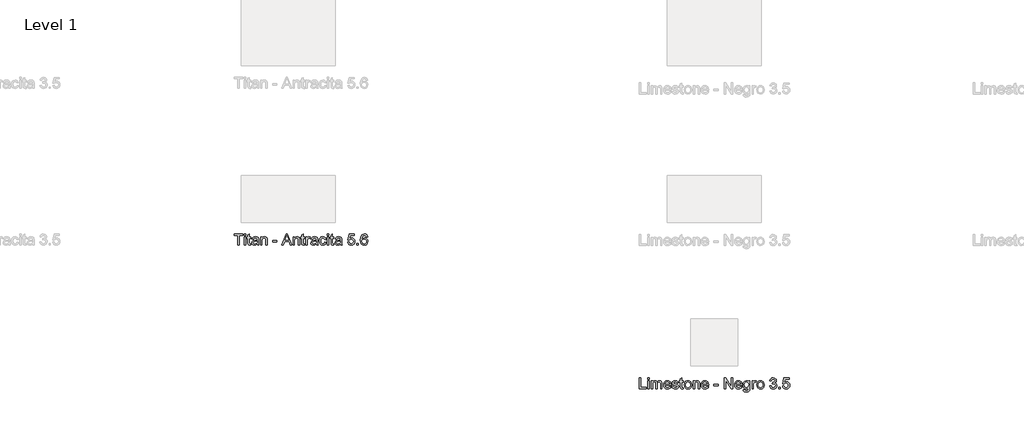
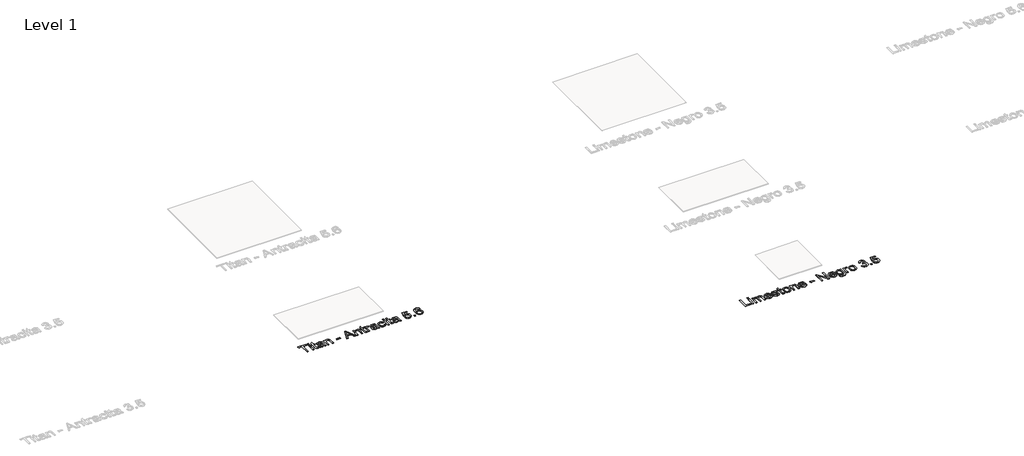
# One storey, part 8 of 80: 2 proxies.
"""IFC4 building model written with IfcOpenShell, lengths in millimetres."""

from ifc_helpers import new_model, si_unit, origin, origin_with_axes, place, context, project, spatial, polyline, outline, extrude, element, save

model = new_model("IFC4")

# Units and contexts
model_context = context("Model", 3, world=origin())
ifc_project = project(units=[si_unit("LENGTHUNIT", "METRE", prefix="MILLI")], contexts=[model_context])

# Site, building, storey
site = spatial("IfcSite", under=ifc_project)
building = spatial("IfcBuilding", under=site)
storey = spatial("IfcBuildingStorey", under=building, Name="Level 1", Elevation=0.0)

# Proxies
placement = place(None, origin())
element("IfcBuildingElementProxy", 1, Name="24\" Arial", ObjectType="24\" Arial", at=placement, inside=storey, context=model_context, shape_type="SweptSolid", body=[
    extrude(outline(polyline([(-3383.0761079, -21843.2188289), (-3383.0761079, -21725.0649827), (-3368.3068771, -21725.0649827), (-3368.3068771, -21828.4495981), (-3309.2299541, -21828.4495981), (-3309.2299541, -21843.2188289), (-3383.0761079, -21843.2188289)])), origin_with_axes(), (0.0, 0.0, 1.0), 2.0),
    extrude(outline(polyline([(-3294.4607233, -21739.8342135), (-3294.4607233, -21725.0649827), (-3279.6914925, -21725.0649827), (-3279.6914925, -21739.8342135), (-3294.4607233, -21739.8342135)])), origin_with_axes(), (0.0, 0.0, 1.0), 2.0),
    extrude(outline(polyline([(-3294.4607233, -21843.2188289), (-3294.4607233, -21756.4495981), (-3279.6914925, -21756.4495981), (-3279.6914925, -21843.2188289), (-3294.4607233, -21843.2188289)])), origin_with_axes(), (0.0, 0.0, 1.0), 2.0),
    extrude(outline(polyline([(-3257.5376464, -21843.2188289), (-3257.5376464, -21756.4495981), (-3242.7684156, -21756.4495981), (-3242.7684156, -21770.7284443), (-3232.6145694, -21759.0313289), (-3218.1626464, -21754.6034443), (-3203.3645694, -21759.1178673), (-3195.2299541, -21771.7669058), (-3183.7059156, -21758.8943097), (-3169.153031, -21754.6034443), (-3158.0508675, -21756.3883), (-3149.840531, -21761.7428673), (-3144.7672137, -21770.811377), (-3143.0761079, -21783.7380597), (-3143.0761079, -21843.2188289), (-3157.8453387, -21843.2188289), (-3157.8453387, -21790.0842135), (-3159.215531, -21777.7524827), (-3164.1770694, -21771.6803673), (-3172.6145694, -21769.372675), (-3180.6157714, -21770.8510404), (-3187.1386079, -21775.2861366), (-3191.4763483, -21782.9808481), (-3192.9222617, -21794.2380597), (-3192.9222617, -21843.2188289), (-3207.6914925, -21843.2188289), (-3207.6914925, -21788.4399827), (-3211.1097617, -21774.1322904), (-3222.3164925, -21769.372675), (-3233.2491848, -21772.545752), (-3240.5184156, -21781.8342135), (-3242.7684156, -21799.4592135), (-3242.7684156, -21843.2188289), (-3257.5376464, -21843.2188289)])), origin_with_axes(), (0.0, 0.0, 1.0), 2.0),
    extrude(outline(polyline([(-3060.1722617, -21817.372675), (-3045.6914925, -21819.2188289), (-3050.9090406, -21830.1298866), (-3059.2347617, -21838.2861366), (-3070.481156, -21843.3702712), (-3084.4607233, -21845.0649827), (-3101.7900502, -21842.1407039), (-3115.1241848, -21833.3678673), (-3123.6265887, -21819.3161847), (-3126.4607233, -21800.5553673), (-3123.5977425, -21781.1635404), (-3115.0088002, -21766.6611366), (-3101.8549541, -21757.6178673), (-3085.2972617, -21754.6034443), (-3069.2551944, -21757.6106558), (-3056.4366848, -21766.6322904), (-3048.0316367, -21781.1058481), (-3045.2299541, -21800.4688289), (-3045.3164925, -21804.4495981), (-3111.6914925, -21804.4495981), (-3109.1350021, -21815.5048866), (-3103.1963002, -21823.6322904), (-3094.6253867, -21828.6298866), (-3084.1722617, -21830.295752), (-3069.6914925, -21827.2092135), (-3060.1722617, -21817.372675)]), holes=[polyline([(-3111.6914925, -21789.6803673), (-3059.9991848, -21789.6803673), (-3065.9126464, -21776.295752), (-3074.5232233, -21771.1034443), (-3085.3549541, -21769.372675), (-3103.5424541, -21774.8967135), (-3109.2648098, -21781.3546462), (-3111.6914925, -21789.6803673)])]), origin_with_axes(), (0.0, 0.0, 1.0), 2.0),
    extrude(outline(polyline([(-3035.9991848, -21817.372675), (-3021.2299541, -21815.5265212), (-3014.3934156, -21826.4880597), (-2998.7299541, -21830.295752), (-2983.6722617, -21826.8053673), (-2978.7684156, -21818.6130597), (-2983.7011079, -21811.9784443), (-2998.903031, -21807.7669058), (-3021.1434156, -21800.5409443), (-3030.8501464, -21792.1034443), (-3034.153031, -21780.1899827), (-3031.4991848, -21769.185175), (-3024.2588002, -21760.7765212), (-3014.8693771, -21756.4063289), (-3002.1626464, -21754.6034443), (-2984.1914925, -21757.5024827), (-2972.7684156, -21765.3486366), (-2967.6914925, -21778.6034443), (-2982.4607233, -21780.4495981), (-2988.0136079, -21772.3005597), (-3001.0088002, -21769.372675), (-3015.1434156, -21772.170752), (-3019.3838002, -21778.6899827), (-3017.6241848, -21782.9880597), (-3012.1145694, -21786.247675), (-2999.3934156, -21789.3919058), (-2977.715531, -21796.3438289), (-2967.6482233, -21804.2188289), (-2963.9991848, -21817.0553673), (-2968.2828387, -21831.1899827), (-2980.6434156, -21841.4447904), (-2998.9318771, -21845.0649827), (-3013.8237041, -21843.3197904), (-3024.6914925, -21838.0842135), (-3031.9463002, -21829.4159443), (-3035.9991848, -21817.372675)])), origin_with_axes(), (0.0, 0.0, 1.0), 2.0),
    extrude(outline(polyline([(-2915.9991848, -21830.9015212), (-2914.153031, -21843.6515212), (-2925.2011079, -21845.0649827), (-2937.5761079, -21842.6130597), (-2943.7491848, -21836.1803673), (-2945.5376464, -21819.420752), (-2945.5376464, -21771.2188289), (-2956.6145694, -21771.2188289), (-2956.6145694, -21756.4495981), (-2945.5376464, -21756.4495981), (-2945.5376464, -21735.3630597), (-2930.7684156, -21726.6803673), (-2930.7684156, -21756.4495981), (-2915.9991848, -21756.4495981), (-2915.9991848, -21771.2188289), (-2930.7684156, -21771.2188289), (-2930.7684156, -21818.9880597), (-2929.9895694, -21826.6034443), (-2927.465531, -21829.3005597), (-2922.4318771, -21830.295752), (-2915.9991848, -21830.9015212)])), origin_with_axes(), (0.0, 0.0, 1.0), 2.0),
    extrude(outline(polyline([(-2904.9222617, -21799.8342135), (-2901.7275502, -21778.9135404), (-2892.1434156, -21764.2092135), (-2880.3020694, -21757.0048866), (-2866.1241848, -21754.6034443), (-2850.6085598, -21757.5277231), (-2838.215531, -21766.3005597), (-2830.0917329, -21780.2296462), (-2827.3838002, -21798.622675), (-2832.1722617, -21824.9015212), (-2846.1193771, -21839.7717135), (-2866.1241848, -21845.0649827), (-2881.8273098, -21842.1515212), (-2894.2059156, -21833.4111366), (-2902.2431752, -21819.1899827), (-2904.9222617, -21799.8342135)]), holes=[polyline([(-2890.153031, -21799.8053673), (-2888.4438964, -21813.1719539), (-2883.3164925, -21822.6947904), (-2875.6001464, -21828.3955116), (-2866.1241848, -21830.295752), (-2856.6914925, -21828.3846943), (-2848.9895694, -21822.6515212), (-2843.8621656, -21813.0024827), (-2842.153031, -21799.3438289), (-2843.8729829, -21786.3666654), (-2849.0328387, -21776.9736366), (-2856.7455791, -21771.2729154), (-2866.1241848, -21769.372675), (-2875.6001464, -21771.2657039), (-2883.3164925, -21776.9447904), (-2888.4438964, -21786.4459923), (-2890.153031, -21799.8053673)])]), origin_with_axes(), (0.0, 0.0, 1.0), 2.0),
    extrude(outline(polyline([(-2810.7684156, -21843.2188289), (-2810.7684156, -21756.4495981), (-2795.9991848, -21756.4495981), (-2795.9991848, -21768.5649827), (-2784.7059156, -21758.0938289), (-2769.2876464, -21754.6034443), (-2755.340531, -21757.4159443), (-2745.8213002, -21764.8005597), (-2741.3934156, -21775.6611366), (-2740.6145694, -21789.9399827), (-2740.6145694, -21843.2188289), (-2755.3838002, -21843.2188289), (-2755.3838002, -21791.9303673), (-2757.0857233, -21778.8630597), (-2763.1001464, -21771.9544058), (-2773.2395694, -21769.372675), (-2789.2636079, -21775.170752), (-2794.3152906, -21783.5721943), (-2795.9991848, -21797.1803673), (-2795.9991848, -21843.2188289), (-2810.7684156, -21843.2188289)])), origin_with_axes(), (0.0, 0.0, 1.0), 2.0),
    extrude(outline(polyline([(-2659.5568771, -21817.372675), (-2645.0761079, -21819.2188289), (-2650.293656, -21830.1298866), (-2658.6193771, -21838.2861366), (-2669.8657714, -21843.3702712), (-2683.8453387, -21845.0649827), (-2701.1746656, -21842.1407039), (-2714.5088002, -21833.3678673), (-2723.0112041, -21819.3161847), (-2725.8453387, -21800.5553673), (-2722.9823579, -21781.1635404), (-2714.3934156, -21766.6611366), (-2701.2395694, -21757.6178673), (-2684.6818771, -21754.6034443), (-2668.6398098, -21757.6106558), (-2655.8213002, -21766.6322904), (-2647.4162521, -21781.1058481), (-2644.6145694, -21800.4688289), (-2644.7011079, -21804.4495981), (-2711.0761079, -21804.4495981), (-2708.5196175, -21815.5048866), (-2702.5809156, -21823.6322904), (-2694.0100021, -21828.6298866), (-2683.5568771, -21830.295752), (-2669.0761079, -21827.2092135), (-2659.5568771, -21817.372675)]), holes=[polyline([(-2711.0761079, -21789.6803673), (-2659.3838002, -21789.6803673), (-2665.2972617, -21776.295752), (-2673.9078387, -21771.1034443), (-2684.7395694, -21769.372675), (-2702.9270694, -21774.8967135), (-2708.6494252, -21781.3546462), (-2711.0761079, -21789.6803673)])]), origin_with_axes(), (0.0, 0.0, 1.0), 2.0),
    extrude(outline(polyline([(-2591.0761079, -21808.1419058), (-2591.0761079, -21793.372675), (-2544.9222617, -21793.372675), (-2544.9222617, -21808.1419058), (-2591.0761079, -21808.1419058)])), origin_with_axes(), (0.0, 0.0, 1.0), 2.0),
    extrude(outline(polyline([(-2480.3068771, -21843.2188289), (-2480.3068771, -21725.0649827), (-2464.4991848, -21725.0649827), (-2402.7684156, -21818.670752), (-2402.7684156, -21725.0649827), (-2387.9991848, -21725.0649827), (-2387.9991848, -21843.2188289), (-2403.8068771, -21843.2188289), (-2465.5376464, -21749.5842135), (-2465.5376464, -21843.2188289), (-2480.3068771, -21843.2188289)])), origin_with_axes(), (0.0, 0.0, 1.0), 2.0),
    extrude(outline(polyline([(-2303.2491848, -21817.372675), (-2288.7684156, -21819.2188289), (-2293.9859637, -21830.1298866), (-2302.3116848, -21838.2861366), (-2313.5580791, -21843.3702712), (-2327.5376464, -21845.0649827), (-2344.8669733, -21842.1407039), (-2358.2011079, -21833.3678673), (-2366.7035117, -21819.3161847), (-2369.5376464, -21800.5553673), (-2366.6746656, -21781.1635404), (-2358.0857233, -21766.6611366), (-2344.9318771, -21757.6178673), (-2328.3741848, -21754.6034443), (-2312.3321175, -21757.6106558), (-2299.5136079, -21766.6322904), (-2291.1085598, -21781.1058481), (-2288.3068771, -21800.4688289), (-2288.3934156, -21804.4495981), (-2354.7684156, -21804.4495981), (-2352.2119252, -21815.5048866), (-2346.2732233, -21823.6322904), (-2337.7023098, -21828.6298866), (-2327.2491848, -21830.295752), (-2312.7684156, -21827.2092135), (-2303.2491848, -21817.372675)]), holes=[polyline([(-2354.7684156, -21789.6803673), (-2303.0761079, -21789.6803673), (-2308.9895694, -21776.295752), (-2317.6001464, -21771.1034443), (-2328.4318771, -21769.372675), (-2346.6193771, -21774.8967135), (-2352.3417329, -21781.3546462), (-2354.7684156, -21789.6803673)])]), origin_with_axes(), (0.0, 0.0, 1.0), 2.0),
    extrude(outline(polyline([(-2277.2299541, -21850.6034443), (-2262.4607233, -21852.4495981), (-2257.6722617, -21860.2380597), (-2243.3357233, -21863.5265212), (-2228.2203387, -21859.8053673), (-2221.0088002, -21849.3630597), (-2219.9991848, -21832.1419058), (-2230.3982233, -21840.4495981), (-2243.0761079, -21843.2188289), (-2258.3032714, -21839.9952712), (-2269.6578387, -21830.3245981), (-2276.7215406, -21816.1467135), (-2279.0761079, -21799.4015212), (-2274.8501464, -21776.5120981), (-2262.6193771, -21760.3149827), (-2243.7972617, -21754.6034443), (-2230.621781, -21757.8342135), (-2219.9991848, -21767.5265212), (-2219.9991848, -21756.4495981), (-2205.2299541, -21756.4495981), (-2205.2299541, -21831.3630597), (-2209.2684156, -21860.0505597), (-2222.0616848, -21873.3919058), (-2243.6241848, -21878.295752), (-2257.3657714, -21876.5685885), (-2268.1866848, -21871.3870981), (-2275.1277906, -21862.7368577), (-2277.2299541, -21850.6034443)]), holes=[polyline([(-2264.3068771, -21798.3919058), (-2262.731156, -21811.9387808), (-2258.0039925, -21821.2524827), (-2250.8970214, -21826.6503193), (-2242.1818771, -21828.4495981), (-2233.5316367, -21826.6611366), (-2226.3886079, -21821.295752), (-2221.5965406, -21812.1010404), (-2219.9991848, -21798.8245981), (-2221.6434156, -21786.0205116), (-2226.5761079, -21776.8005597), (-2233.8237041, -21771.2296462), (-2242.4126464, -21769.372675), (-2250.8465406, -21771.2008), (-2257.9174541, -21776.685175), (-2262.7095214, -21785.7681077), (-2264.3068771, -21798.3919058)])]), origin_with_axes(), (0.0, 0.0, 1.0), 2.0),
    extrude(outline(polyline([(-2183.0761079, -21843.2188289), (-2183.0761079, -21756.4495981), (-2170.153031, -21756.4495981), (-2170.153031, -21769.2861366), (-2160.9799541, -21757.4592135), (-2151.7491848, -21754.6034443), (-2136.9222617, -21759.1611366), (-2141.8549541, -21772.4015212), (-2152.2395694, -21769.372675), (-2160.590531, -21772.2861366), (-2165.9126464, -21780.3630597), (-2168.3068771, -21797.6130597), (-2168.3068771, -21843.2188289), (-2183.0761079, -21843.2188289)])), origin_with_axes(), (0.0, 0.0, 1.0), 2.0),
    extrude(outline(polyline([(-2131.3838002, -21799.8342135), (-2128.1890887, -21778.9135404), (-2118.6049541, -21764.2092135), (-2106.7636079, -21757.0048866), (-2092.5857233, -21754.6034443), (-2077.0700983, -21757.5277231), (-2064.6770694, -21766.3005597), (-2056.5532714, -21780.2296462), (-2053.8453387, -21798.622675), (-2058.6338002, -21824.9015212), (-2072.5809156, -21839.7717135), (-2092.5857233, -21845.0649827), (-2108.2888483, -21842.1515212), (-2120.6674541, -21833.4111366), (-2128.7047137, -21819.1899827), (-2131.3838002, -21799.8342135)]), holes=[polyline([(-2116.6145694, -21799.8053673), (-2114.9054348, -21813.1719539), (-2109.778031, -21822.6947904), (-2102.0616848, -21828.3955116), (-2092.5857233, -21830.295752), (-2083.153031, -21828.3846943), (-2075.4511079, -21822.6515212), (-2070.3237041, -21813.0024827), (-2068.6145694, -21799.3438289), (-2070.3345214, -21786.3666654), (-2075.4943771, -21776.9736366), (-2083.2071175, -21771.2729154), (-2092.5857233, -21769.372675), (-2102.0616848, -21771.2657039), (-2109.778031, -21776.9447904), (-2114.9054348, -21786.4459923), (-2116.6145694, -21799.8053673)])]), origin_with_axes(), (0.0, 0.0, 1.0), 2.0),
    extrude(outline(polyline([(-1994.7684156, -21811.8342135), (-1979.9991848, -21809.9880597), (-1971.8501464, -21825.5361366), (-1956.6049541, -21830.295752), (-1946.4799541, -21828.6587327), (-1938.6626464, -21823.747675), (-1933.6650502, -21816.420752), (-1931.9991848, -21807.5361366), (-1933.6506271, -21799.1022423), (-1938.6049541, -21792.2620981), (-1946.1049541, -21787.7296462), (-1955.3934156, -21786.2188289), (-1965.7491848, -21787.8342135), (-1964.1049541, -21773.0649827), (-1961.7395694, -21773.2380597), (-1944.9799541, -21768.997675), (-1939.3982233, -21763.6178673), (-1937.5376464, -21755.9592135), (-1942.9318771, -21744.4063289), (-1956.8357233, -21739.8342135), (-1970.9126464, -21744.4495981), (-1978.153031, -21758.295752), (-1992.9222617, -21756.4495981), (-1988.5737041, -21743.1875789), (-1980.8357233, -21733.2861366), (-1970.2491848, -21727.1202712), (-1957.3549541, -21725.0649827), (-1939.5424541, -21729.1178673), (-1927.0809156, -21740.1947904), (-1922.7684156, -21755.0938289), (-1926.8645694, -21768.7092135), (-1938.9799541, -21778.4880597), (-1929.7347617, -21782.2236366), (-1922.8838002, -21788.5842135), (-1918.6434156, -21797.2236366), (-1917.2299541, -21807.795752), (-1920.0568771, -21822.1899827), (-1928.5376464, -21834.2188289), (-1941.3381271, -21842.3534443), (-1957.1241848, -21845.0649827), (-1971.403031, -21842.7500789), (-1983.028031, -21835.8053673), (-1991.1121656, -21825.1827712), (-1994.7684156, -21811.8342135)])), origin_with_axes(), (0.0, 0.0, 1.0), 2.0),
    extrude(outline(polyline([(-1896.9222617, -21843.2188289), (-1896.9222617, -21828.4495981), (-1882.153031, -21828.4495981), (-1882.153031, -21843.2188289), (-1896.9222617, -21843.2188289)])), origin_with_axes(), (0.0, 0.0, 1.0), 2.0),
    extrude(outline(polyline([(-1858.153031, -21811.8342135), (-1843.3838002, -21809.9880597), (-1835.9414925, -21825.2044058), (-1820.5088002, -21830.295752), (-1809.9222617, -21828.5253193), (-1801.9895694, -21823.2140212), (-1797.0352425, -21814.9748385), (-1795.3838002, -21804.420752), (-1796.9306752, -21794.483252), (-1801.5713002, -21786.8822904), (-1809.3417329, -21782.0577712), (-1820.278031, -21780.4495981), (-1833.2443771, -21783.0169058), (-1841.5376464, -21789.6803673), (-1856.3068771, -21787.8342135), (-1843.3838002, -21726.9111366), (-1786.153031, -21726.9111366), (-1786.153031, -21741.6803673), (-1831.4414925, -21741.6803673), (-1837.7588002, -21774.2188289), (-1827.2083194, -21767.8149827), (-1816.153031, -21765.6803673), (-1802.3537521, -21768.327002), (-1790.8982233, -21776.2669058), (-1783.1854829, -21788.3678673), (-1780.6145694, -21803.497675), (-1782.9294733, -21818.2669058), (-1789.8741848, -21830.9015212), (-1803.1722617, -21841.5241173), (-1820.5664925, -21845.0649827), (-1835.0725021, -21842.7897423), (-1846.6289925, -21835.9640212), (-1854.5508675, -21825.3810885), (-1858.153031, -21811.8342135)])), origin_with_axes(), (0.0, 0.0, 1.0), 2.0),
])
element("IfcBuildingElementProxy", 2, Name="24\" Arial", ObjectType="24\" Arial", at=placement, inside=storey, context=model_context, shape_type="SweptSolid", body=[
    extrude(outline(polyline([(-7662.7684156, -20307.8922787), (-7662.7684156, -20204.5076633), (-7701.5376464, -20204.5076633), (-7701.5376464, -20189.7384325), (-7609.2299541, -20189.7384325), (-7609.2299541, -20204.5076633), (-7647.9991848, -20204.5076633), (-7647.9991848, -20307.8922787), (-7662.7684156, -20307.8922787)])), origin_with_axes(), (0.0, 0.0, 1.0), 2.0),
    extrude(outline(polyline([(-7594.4607233, -20307.8922787), (-7594.4607233, -20221.1230479), (-7579.6914925, -20221.1230479), (-7579.6914925, -20307.8922787), (-7594.4607233, -20307.8922787)])), origin_with_axes(), (0.0, 0.0, 1.0), 2.0),
    extrude(outline(polyline([(-7594.4607233, -20204.5076633), (-7594.4607233, -20189.7384325), (-7579.6914925, -20189.7384325), (-7579.6914925, -20204.5076633), (-7594.4607233, -20204.5076633)])), origin_with_axes(), (0.0, 0.0, 1.0), 2.0),
    extrude(outline(polyline([(-7526.153031, -20295.574971), (-7524.3068771, -20308.324971), (-7535.3549541, -20309.7384325), (-7547.7299541, -20307.2865094), (-7553.903031, -20300.8538171), (-7555.6914925, -20284.0942017), (-7555.6914925, -20235.8922787), (-7566.7684156, -20235.8922787), (-7566.7684156, -20221.1230479), (-7555.6914925, -20221.1230479), (-7555.6914925, -20200.0365094), (-7540.9222617, -20191.3538171), (-7540.9222617, -20221.1230479), (-7526.153031, -20221.1230479), (-7526.153031, -20235.8922787), (-7540.9222617, -20235.8922787), (-7540.9222617, -20283.6615094), (-7540.1434156, -20291.276894), (-7537.6193771, -20293.9740094), (-7532.5857233, -20294.9692017), (-7526.153031, -20295.574971)])), origin_with_axes(), (0.0, 0.0, 1.0), 2.0),
    extrude(outline(polyline([(-7455.9991848, -20296.8153556), (-7470.3213002, -20306.824971), (-7486.1434156, -20309.7384325), (-7498.4859637, -20307.9860287), (-7507.590531, -20302.7288171), (-7513.2047137, -20294.745644), (-7515.0761079, -20284.8153556), (-7512.2491848, -20273.1326633), (-7504.8213002, -20264.651894), (-7494.4799541, -20259.8057402), (-7481.7011079, -20257.5845863), (-7456.0857233, -20252.5076633), (-7455.9991848, -20249.2192017), (-7460.0664925, -20238.3153556), (-7476.3934156, -20234.0461248), (-7491.3357233, -20236.887471), (-7498.4607233, -20246.9692017), (-7513.2299541, -20245.1230479), (-7506.840531, -20230.699971), (-7493.9751464, -20222.2480479), (-7474.4895694, -20219.276894), (-7456.590531, -20221.901894), (-7446.4799541, -20228.4932402), (-7441.9511079, -20238.5172787), (-7441.2299541, -20251.4403556), (-7441.2299541, -20269.8153556), (-7440.4799541, -20295.4740094), (-7437.5376464, -20307.8922787), (-7452.3068771, -20307.8922787), (-7455.9991848, -20296.8153556)]), holes=[polyline([(-7455.9991848, -20267.276894), (-7479.8261079, -20271.8057402), (-7492.5328387, -20274.199971), (-7498.2876464, -20278.0942017), (-7500.3068771, -20283.776894), (-7495.9078387, -20291.7672787), (-7482.9991848, -20294.9692017), (-7468.0568771, -20291.4355479), (-7458.4222617, -20282.8826633), (-7456.0857233, -20271.4595863), (-7455.9991848, -20267.276894)])]), origin_with_axes(), (0.0, 0.0, 1.0), 2.0),
    extrude(outline(polyline([(-7420.9222617, -20307.8922787), (-7420.9222617, -20221.1230479), (-7406.153031, -20221.1230479), (-7406.153031, -20233.2384325), (-7394.8597617, -20222.7672787), (-7379.4414925, -20219.276894), (-7365.4943771, -20222.089394), (-7355.9751464, -20229.4740094), (-7351.5472617, -20240.3345863), (-7350.7684156, -20254.6134325), (-7350.7684156, -20307.8922787), (-7365.5376464, -20307.8922787), (-7365.5376464, -20256.6038171), (-7367.2395694, -20243.5365094), (-7373.2539925, -20236.6278556), (-7383.3934156, -20234.0461248), (-7399.4174541, -20239.8442017), (-7404.4691367, -20248.245644), (-7406.153031, -20261.8538171), (-7406.153031, -20307.8922787), (-7420.9222617, -20307.8922787)])), origin_with_axes(), (0.0, 0.0, 1.0), 2.0),
    extrude(outline(polyline([(-7291.6914925, -20272.8153556), (-7291.6914925, -20258.0461248), (-7245.5376464, -20258.0461248), (-7245.5376464, -20272.8153556), (-7291.6914925, -20272.8153556)])), origin_with_axes(), (0.0, 0.0, 1.0), 2.0),
    extrude(outline(polyline([(-7194.6818771, -20307.8922787), (-7147.5184156, -20189.7384325), (-7134.9414925, -20189.7384325), (-7087.778031, -20307.8922787), (-7103.3838002, -20307.8922787), (-7116.9126464, -20270.9692017), (-7165.5761079, -20270.9692017), (-7179.0761079, -20307.8922787), (-7194.6818771, -20307.8922787)]), holes=[polyline([(-7160.153031, -20256.199971), (-7122.3068771, -20256.199971), (-7132.9511079, -20227.151894), (-7141.2299541, -20204.5076633), (-7148.5857233, -20224.6134325), (-7160.153031, -20256.199971)])]), origin_with_axes(), (0.0, 0.0, 1.0), 2.0),
    extrude(outline(polyline([(-7073.8453387, -20307.8922787), (-7073.8453387, -20221.1230479), (-7059.0761079, -20221.1230479), (-7059.0761079, -20233.2384325), (-7047.7828387, -20222.7672787), (-7032.3645694, -20219.276894), (-7018.4174541, -20222.089394), (-7008.8982233, -20229.4740094), (-7004.4703387, -20240.3345863), (-7003.6914925, -20254.6134325), (-7003.6914925, -20307.8922787), (-7018.4607233, -20307.8922787), (-7018.4607233, -20256.6038171), (-7020.1626464, -20243.5365094), (-7026.1770694, -20236.6278556), (-7036.3164925, -20234.0461248), (-7052.340531, -20239.8442017), (-7057.3922137, -20248.245644), (-7059.0761079, -20261.8538171), (-7059.0761079, -20307.8922787), (-7073.8453387, -20307.8922787)])), origin_with_axes(), (0.0, 0.0, 1.0), 2.0),
    extrude(outline(polyline([(-6951.9991848, -20295.574971), (-6950.153031, -20308.324971), (-6961.2011079, -20309.7384325), (-6973.5761079, -20307.2865094), (-6979.7491848, -20300.8538171), (-6981.5376464, -20284.0942017), (-6981.5376464, -20235.8922787), (-6992.6145694, -20235.8922787), (-6992.6145694, -20221.1230479), (-6981.5376464, -20221.1230479), (-6981.5376464, -20200.0365094), (-6966.7684156, -20191.3538171), (-6966.7684156, -20221.1230479), (-6951.9991848, -20221.1230479), (-6951.9991848, -20235.8922787), (-6966.7684156, -20235.8922787), (-6966.7684156, -20283.6615094), (-6965.9895694, -20291.276894), (-6963.465531, -20293.9740094), (-6958.4318771, -20294.9692017), (-6951.9991848, -20295.574971)])), origin_with_axes(), (0.0, 0.0, 1.0), 2.0),
    extrude(outline(polyline([(-6937.2299541, -20307.8922787), (-6937.2299541, -20221.1230479), (-6924.3068771, -20221.1230479), (-6924.3068771, -20233.9595863), (-6915.1338002, -20222.1326633), (-6905.903031, -20219.276894), (-6891.0761079, -20223.8345863), (-6896.0088002, -20237.074971), (-6906.3934156, -20234.0461248), (-6914.7443771, -20236.9595863), (-6920.0664925, -20245.0365094), (-6922.4607233, -20262.2865094), (-6922.4607233, -20307.8922787), (-6937.2299541, -20307.8922787)])), origin_with_axes(), (0.0, 0.0, 1.0), 2.0),
    extrude(outline(polyline([(-6826.4607233, -20296.8153556), (-6840.7828387, -20306.824971), (-6856.6049541, -20309.7384325), (-6868.9475021, -20307.9860287), (-6878.0520694, -20302.7288171), (-6883.6662521, -20294.745644), (-6885.5376464, -20284.8153556), (-6882.7107233, -20273.1326633), (-6875.2828387, -20264.651894), (-6864.9414925, -20259.8057402), (-6852.1626464, -20257.5845863), (-6826.5472617, -20252.5076633), (-6826.4607233, -20249.2192017), (-6830.528031, -20238.3153556), (-6846.8549541, -20234.0461248), (-6861.7972617, -20236.887471), (-6868.9222617, -20246.9692017), (-6883.6914925, -20245.1230479), (-6877.3020694, -20230.699971), (-6864.4366848, -20222.2480479), (-6844.9511079, -20219.276894), (-6827.0520694, -20221.901894), (-6816.9414925, -20228.4932402), (-6812.4126464, -20238.5172787), (-6811.6914925, -20251.4403556), (-6811.6914925, -20269.8153556), (-6810.9414925, -20295.4740094), (-6807.9991848, -20307.8922787), (-6822.7684156, -20307.8922787), (-6826.4607233, -20296.8153556)]), holes=[polyline([(-6826.4607233, -20267.276894), (-6850.2876464, -20271.8057402), (-6862.9943771, -20274.199971), (-6868.7491848, -20278.0942017), (-6870.7684156, -20283.776894), (-6866.3693771, -20291.7672787), (-6853.4607233, -20294.9692017), (-6838.5184156, -20291.4355479), (-6828.8838002, -20282.8826633), (-6826.5472617, -20271.4595863), (-6826.4607233, -20267.276894)])]), origin_with_axes(), (0.0, 0.0, 1.0), 2.0),
    extrude(outline(polyline([(-6735.9991848, -20276.5076633), (-6721.2299541, -20278.3538171), (-6725.3477425, -20291.4896344), (-6733.0857233, -20301.4163171), (-6743.715531, -20307.6579037), (-6756.5088002, -20309.7384325), (-6772.2191367, -20306.8357883), (-6784.5039925, -20298.1278556), (-6792.4330791, -20283.996846), (-6795.0761079, -20264.824971), (-6790.5616848, -20240.2913171), (-6784.8645694, -20231.0929998), (-6776.8020694, -20224.526894), (-6756.7107233, -20219.276894), (-6744.231156, -20221.0797787), (-6734.2539925, -20226.4884325), (-6727.0965406, -20235.214394), (-6723.0761079, -20246.9692017), (-6737.8453387, -20248.8153556), (-6744.6963002, -20237.7528556), (-6756.5953387, -20234.0461248), (-6766.1398098, -20235.870644), (-6773.715531, -20241.3442017), (-6778.6590406, -20250.762471), (-6780.3068771, -20264.4211248), (-6778.6950983, -20278.2636729), (-6773.8597617, -20287.714394), (-6766.4210598, -20293.1554998), (-6756.9991848, -20294.9692017), (-6743.0809156, -20290.4403556), (-6735.9991848, -20276.5076633)])), origin_with_axes(), (0.0, 0.0, 1.0), 2.0),
    extrude(outline(polyline([(-6708.3068771, -20307.8922787), (-6708.3068771, -20221.1230479), (-6693.5376464, -20221.1230479), (-6693.5376464, -20307.8922787), (-6708.3068771, -20307.8922787)])), origin_with_axes(), (0.0, 0.0, 1.0), 2.0),
    extrude(outline(polyline([(-6708.3068771, -20204.5076633), (-6708.3068771, -20189.7384325), (-6693.5376464, -20189.7384325), (-6693.5376464, -20204.5076633), (-6708.3068771, -20204.5076633)])), origin_with_axes(), (0.0, 0.0, 1.0), 2.0),
    extrude(outline(polyline([(-6639.9991848, -20295.574971), (-6638.153031, -20308.324971), (-6649.2011079, -20309.7384325), (-6661.5761079, -20307.2865094), (-6667.7491848, -20300.8538171), (-6669.5376464, -20284.0942017), (-6669.5376464, -20235.8922787), (-6680.6145694, -20235.8922787), (-6680.6145694, -20221.1230479), (-6669.5376464, -20221.1230479), (-6669.5376464, -20200.0365094), (-6654.7684156, -20191.3538171), (-6654.7684156, -20221.1230479), (-6639.9991848, -20221.1230479), (-6639.9991848, -20235.8922787), (-6654.7684156, -20235.8922787), (-6654.7684156, -20283.6615094), (-6653.9895694, -20291.276894), (-6651.465531, -20293.9740094), (-6646.4318771, -20294.9692017), (-6639.9991848, -20295.574971)])), origin_with_axes(), (0.0, 0.0, 1.0), 2.0),
    extrude(outline(polyline([(-6569.8453387, -20296.8153556), (-6584.1674541, -20306.824971), (-6599.9895694, -20309.7384325), (-6612.3321175, -20307.9860287), (-6621.4366848, -20302.7288171), (-6627.0508675, -20294.745644), (-6628.9222617, -20284.8153556), (-6626.0953387, -20273.1326633), (-6618.6674541, -20264.651894), (-6608.3261079, -20259.8057402), (-6595.5472617, -20257.5845863), (-6569.9318771, -20252.5076633), (-6569.8453387, -20249.2192017), (-6573.9126464, -20238.3153556), (-6590.2395694, -20234.0461248), (-6605.1818771, -20236.887471), (-6612.3068771, -20246.9692017), (-6627.0761079, -20245.1230479), (-6620.6866848, -20230.699971), (-6607.8213002, -20222.2480479), (-6588.3357233, -20219.276894), (-6570.4366848, -20221.901894), (-6560.3261079, -20228.4932402), (-6555.7972617, -20238.5172787), (-6555.0761079, -20251.4403556), (-6555.0761079, -20269.8153556), (-6554.3261079, -20295.4740094), (-6551.3838002, -20307.8922787), (-6566.153031, -20307.8922787), (-6569.8453387, -20296.8153556)]), holes=[polyline([(-6569.8453387, -20267.276894), (-6593.6722617, -20271.8057402), (-6606.3789925, -20274.199971), (-6612.1338002, -20278.0942017), (-6614.153031, -20283.776894), (-6609.7539925, -20291.7672787), (-6596.8453387, -20294.9692017), (-6581.903031, -20291.4355479), (-6572.2684156, -20282.8826633), (-6569.9318771, -20271.4595863), (-6569.8453387, -20267.276894)])]), origin_with_axes(), (0.0, 0.0, 1.0), 2.0),
    extrude(outline(polyline([(-6492.3068771, -20276.5076633), (-6477.5376464, -20274.6615094), (-6470.0953387, -20289.8778556), (-6454.6626464, -20294.9692017), (-6444.0761079, -20293.198769), (-6436.1434156, -20287.887471), (-6431.1890887, -20279.6482883), (-6429.5376464, -20269.0942017), (-6431.0845214, -20259.1567017), (-6435.7251464, -20251.5557402), (-6443.4955791, -20246.731221), (-6454.4318771, -20245.1230479), (-6467.3982233, -20247.6903556), (-6475.6914925, -20254.3538171), (-6490.4607233, -20252.5076633), (-6477.5376464, -20191.5845863), (-6420.3068771, -20191.5845863), (-6420.3068771, -20206.3538171), (-6465.5953387, -20206.3538171), (-6471.9126464, -20238.8922787), (-6461.3621656, -20232.4884325), (-6450.3068771, -20230.3538171), (-6436.5075983, -20233.0004517), (-6425.0520694, -20240.9403556), (-6417.3393291, -20253.0413171), (-6414.7684156, -20268.1711248), (-6417.0833194, -20282.9403556), (-6424.028031, -20295.574971), (-6437.3261079, -20306.1975671), (-6454.7203387, -20309.7384325), (-6469.2263483, -20307.4631921), (-6480.7828387, -20300.637471), (-6488.7047137, -20290.0545383), (-6492.3068771, -20276.5076633)])), origin_with_axes(), (0.0, 0.0, 1.0), 2.0),
    extrude(outline(polyline([(-6394.4607233, -20307.8922787), (-6394.4607233, -20293.1230479), (-6379.6914925, -20293.1230479), (-6379.6914925, -20307.8922787), (-6394.4607233, -20307.8922787)])), origin_with_axes(), (0.0, 0.0, 1.0), 2.0),
    extrude(outline(polyline([(-6279.9991848, -20221.1230479), (-6294.7684156, -20222.9692017), (-6300.3645694, -20210.651894), (-6307.0640887, -20206.043721), (-6315.1626464, -20204.5076633), (-6328.4895694, -20208.0845863), (-6338.5713002, -20221.512471), (-6342.7684156, -20247.8345863), (-6329.7443771, -20236.0509325), (-6313.6049541, -20232.199971), (-6299.9607233, -20234.8321825), (-6288.5088002, -20242.7288171), (-6280.7419733, -20254.793721), (-6278.153031, -20269.9307402), (-6283.028031, -20290.3105479), (-6296.4414925, -20304.7336248), (-6315.7972617, -20309.7384325), (-6332.5532714, -20306.4211248), (-6345.8982233, -20296.4692017), (-6354.6277906, -20278.901894), (-6357.5376464, -20252.7384325), (-6354.3068771, -20223.3225671), (-6344.6145694, -20203.2095863), (-6331.3813964, -20193.106221), (-6314.2395694, -20189.7384325), (-6301.2804348, -20191.8225671), (-6290.903031, -20198.074971), (-6283.6338002, -20208.0052594), (-6279.9991848, -20221.1230479)]), holes=[polyline([(-6342.7684156, -20269.699971), (-6339.3501464, -20282.4932402), (-6330.2636079, -20291.7817017), (-6316.9511079, -20294.9692017), (-6307.2047137, -20293.3177594), (-6299.5424541, -20288.3634325), (-6294.5773098, -20280.574971), (-6292.9222617, -20270.4211248), (-6294.5556752, -20260.6747306), (-6299.4559156, -20253.2432402), (-6307.2479829, -20248.5377113), (-6317.5568771, -20246.9692017), (-6327.2888483, -20248.5377113), (-6335.4270694, -20253.2432402), (-6340.9330791, -20260.4944421), (-6342.7684156, -20269.699971)])]), origin_with_axes(), (0.0, 0.0, 1.0), 2.0),
])

save(model, "model.ifc")
